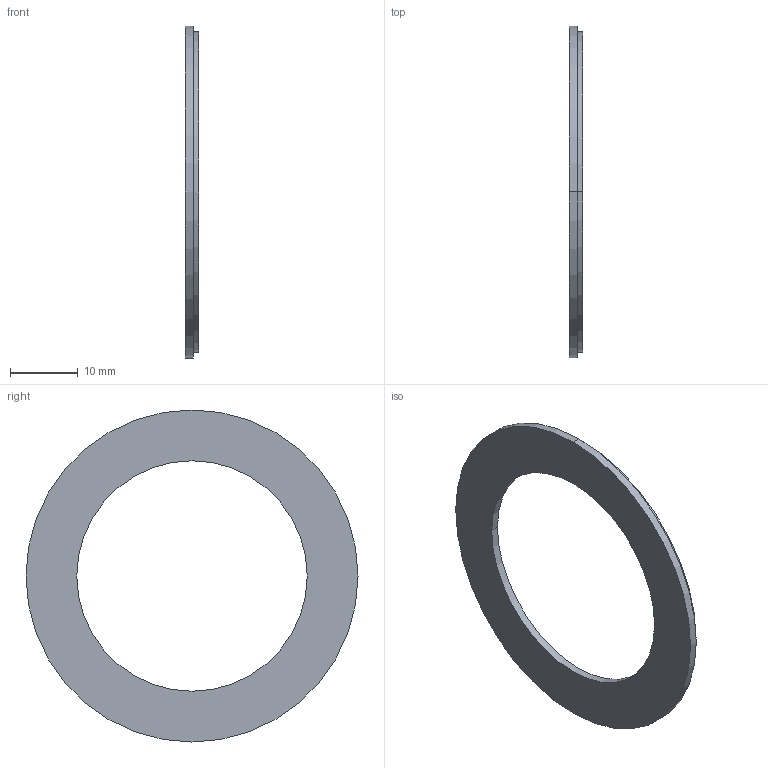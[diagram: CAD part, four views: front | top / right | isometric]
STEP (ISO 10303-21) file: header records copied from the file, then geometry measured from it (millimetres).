
FILE_DESCRIPTION (( 'STEP AP214' ), '1' );
FILE_NAME ('MRA049BG034DSN00.STEP', '2019-07-05T12:16:09', ( '' ), ( '' ), 'SwSTEP 2.0', 'SolidWorks 2016', '' );
FILE_SCHEMA (( 'AUTOMOTIVE_DESIGN' ));
Length unit declared in the file: millimetre
Products named in the file (3): MRA049BG034DSN00; MN00438_Elastoferit_OD49-ID37x1; MN00707_00_prirobnica_D49-d34x1,2
Assembly tree (2 placements, depth 2):
  MRA049BG034DSN00
    MN00707_00_prirobnica_D49-d34x1,2
    MN00438_Elastoferit_OD49-ID37x1
Bounding box: 2 x 49 x 49 mm (x, y, z)
Volume: 1690.8 mm3; surface area: 3775.5 mm2
Topology: 2 solids, 2 shells, 12 faces, 24 edges, 16 vertices
Faces by surface type: cylinder 8, plane 4
Entity records: 442 total; most frequent: DIRECTION 74, CARTESIAN_POINT 57, ORIENTED_EDGE 48, AXIS2_PLACEMENT_3D 33, EDGE_CURVE 24, EDGE_LOOP 16, CIRCLE 16, VERTEX_POINT 16
